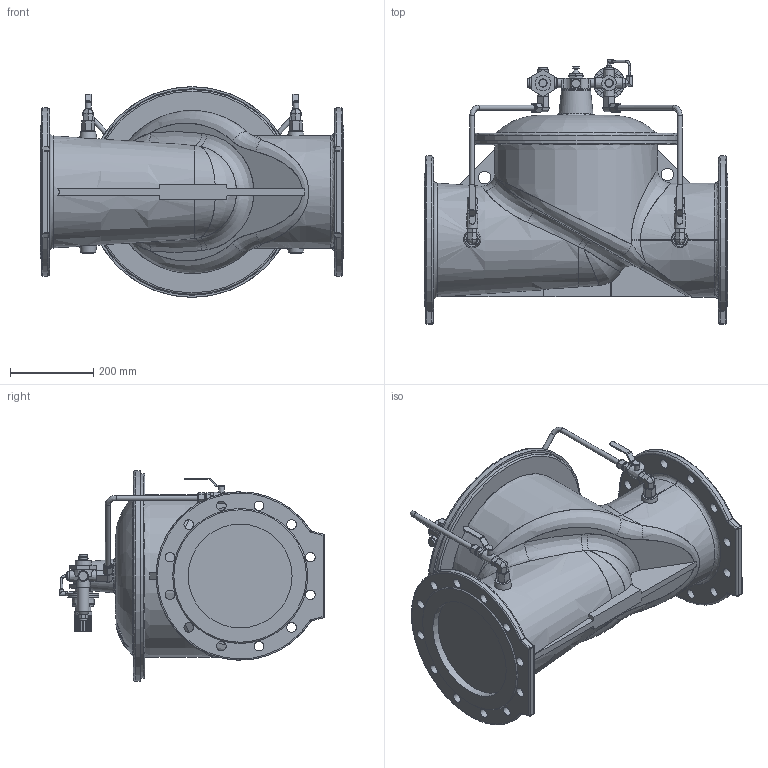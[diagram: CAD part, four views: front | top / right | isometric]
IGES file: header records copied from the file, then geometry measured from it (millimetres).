
Start section: SolidWorks IGES file using analytic representation for surfaces
Global section: file name: \\avksan2\techshare\PBM outline export from Enovia\O_859_00_DN250_0XXXX00_REV01.igs; native system: SolidWorks 2019; preprocessor: SolidWorks 2019; author: pbm; date: 201117.130144; units: millimetre
Bounding box: 730 x 636.83 x 507 mm (x, y, z)
Surface area: 1707663.8 mm2 (no closed solid volume)
Topology: 0 solids, 1 shells, 877 faces, 4252 edges, 4119 vertices
Faces by surface type: bspline 566, revolution 311
